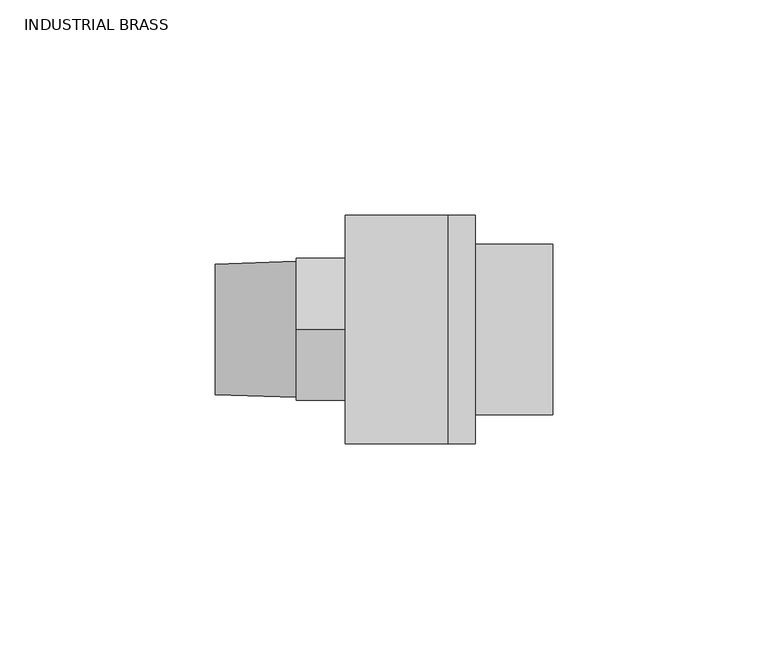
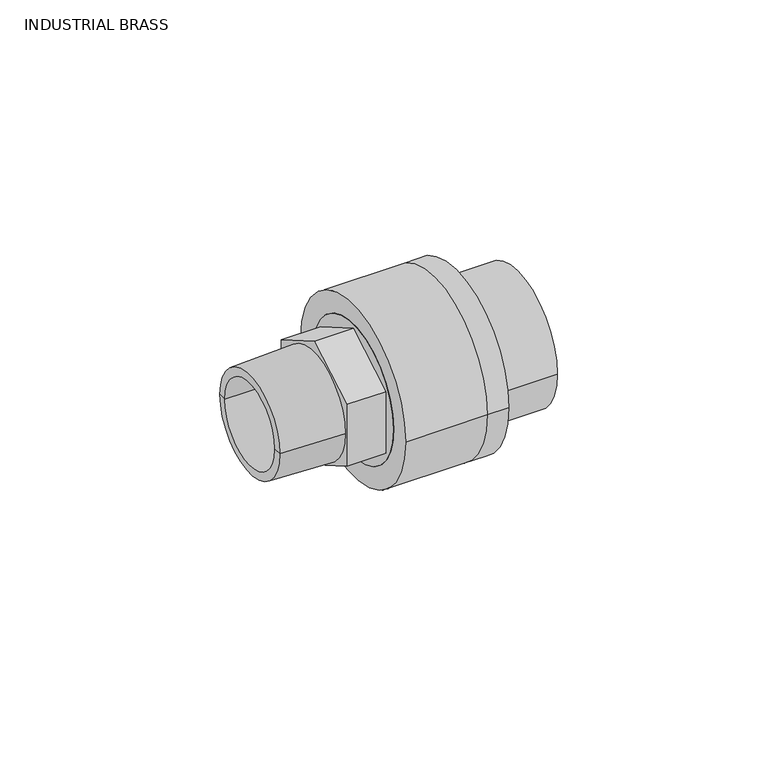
"""IFC4 building model written with IfcOpenShell, lengths in millimetres: valve geometry, Aquatherm - Transition Piece - M HEX : INDUSTRIAL BRASS."""

from ifc_helpers import new_model, si_unit, frame, origin, place, context, project, spatial, polyline, circle_curve, source, transform, mapped, element, save
from ifc_brep_helpers import plane_surface, cylinder_surface, revolved_surface, advanced_brep


def industrial_brass_9856b5b7(model_context):
    return source(origin(), model_context, "Body", "AdvancedBrep", [
        advanced_brep(
        [(23.876, -20.32, 0.0), (23.876, 20.32, 0.0), (23.876, -12.7, 0.0), (23.876, 12.7, 0.0), (0.0, -20.32, 0.0), (0.0, 20.32, 0.0), (0.0, 0.0, -19.0641059), (0.0, 16.51, -9.5320529), (0.0, 16.51, 9.5320529), (0.0, 0.0, 19.0641059), (0.0, -16.51, 9.5320529), (0.0, -16.51, -9.5320529), (0.0, -12.7, 0.0), (0.0, 12.7, 0.0), (-11.43, 0.0, -19.0641059), (-11.43, -16.51, -9.5320529), (-11.43, -16.51, 9.5320529), (-11.43, 0.0, 19.0641059), (-11.43, 16.51, 9.5320529), (-11.43, 16.51, -9.5320529), (-11.43, -15.7776355, 0.0), (-11.43, 15.7776355, 0.0), (-11.43, -12.7, 0.0), (-11.43, 12.7, 0.0), (-30.226, 12.7, 0.0), (-30.226, -12.7, 0.0), (-30.226, 15.1786145, 0.0), (-30.226, -15.1786145, 0.0)],
        [
            (0, 1, circle_curve(frame((23.876, 0.0, 0.0), z_axis=(1.0, 0.0, 0.0), x_axis=(0.0, 1.0, 0.0)), 20.32)),
            (1, 0, circle_curve(frame((23.876, 0.0, 0.0), z_axis=(1.0, 0.0, 0.0), x_axis=(0.0, 1.0, 0.0)), 20.32)),
            (2, 3, circle_curve(frame((23.876, 0.0, 0.0), z_axis=(-1.0, 0.0, 0.0), x_axis=(0.0, 1.0, 0.0)), 12.7)),
            (3, 2, circle_curve(frame((23.876, 0.0, 0.0), z_axis=(-1.0, 0.0, 0.0), x_axis=(0.0, 1.0, 0.0)), 12.7)),
            (4, 5, circle_curve(frame((0.0, 0.0, 0.0), z_axis=(-1.0, 0.0, 0.0), x_axis=(0.0, 1.0, 0.0)), 20.32)),
            (5, 4, circle_curve(frame((0.0, 0.0, 0.0), z_axis=(-1.0, 0.0, 0.0), x_axis=(0.0, 1.0, 0.0)), 20.32)),
            (6, 7),
            (7, 8),
            (8, 9),
            (9, 10),
            (10, 11),
            (11, 6),
            (0, 4),
            (5, 1),
            (2, 12),
            (12, 13, circle_curve(frame((0.0, 0.0, 0.0), z_axis=(-1.0, 0.0, 0.0), x_axis=(0.0, 1.0, 0.0)), 12.7)),
            (13, 3),
            (13, 12, circle_curve(frame((0.0, 0.0, 0.0), z_axis=(-1.0, 0.0, 0.0), x_axis=(0.0, 1.0, 0.0)), 12.7)),
            (14, 15),
            (15, 16),
            (16, 17),
            (17, 18),
            (18, 19),
            (19, 14),
            (20, 21, circle_curve(frame((-11.43, 0.0, 0.0), z_axis=(1.0, 0.0, 0.0), x_axis=(0.0, 1.0, 0.0)), 15.7776355)),
            (21, 20, circle_curve(frame((-11.43, 0.0, 0.0), z_axis=(1.0, 0.0, 0.0), x_axis=(0.0, 1.0, 0.0)), 15.7776355)),
            (19, 7),
            (6, 14),
            (18, 8),
            (17, 9),
            (16, 10),
            (15, 11),
            (12, 22),
            (22, 23, circle_curve(frame((-11.43, 0.0, 0.0), z_axis=(-1.0, 0.0, 0.0), x_axis=(0.0, 1.0, 0.0)), 12.7)),
            (23, 13),
            (23, 22, circle_curve(frame((-11.43, 0.0, 0.0), z_axis=(-1.0, 0.0, 0.0), x_axis=(0.0, 1.0, 0.0)), 12.7)),
            (23, 24),
            (24, 25, circle_curve(frame((-30.226, 0.0, 0.0), z_axis=(-1.0, 0.0, 0.0), x_axis=(0.0, 1.0, 0.0)), 12.7)),
            (25, 22),
            (25, 24, circle_curve(frame((-30.226, 0.0, 0.0), z_axis=(-1.0, 0.0, 0.0), x_axis=(0.0, 1.0, 0.0)), 12.7)),
            (24, 26),
            (26, 27, circle_curve(frame((-30.226, 0.0, 0.0), z_axis=(-1.0, 0.0, 0.0), x_axis=(0.0, 1.0, 0.0)), 15.1786145)),
            (27, 25),
            (27, 26, circle_curve(frame((-30.226, 0.0, 0.0), z_axis=(-1.0, 0.0, 0.0), x_axis=(0.0, 1.0, 0.0)), 15.1786145)),
            (26, 21),
            (20, 27),
        ],
        [
            plane_surface(frame((23.876, 20.32, 0.0), z_axis=(1.0, 0.0, 0.0), x_axis=(0.0, 0.0, 1.0))),
            plane_surface(frame((0.0, 20.32, 0.0), z_axis=(-1.0, 0.0, 0.0), x_axis=(0.0, 0.0, -1.0))),
            cylinder_surface(frame((0.0, 0.0, 0.0), z_axis=(1.0, 0.0, 0.0), x_axis=(0.0, 1.0, 0.0)), 20.32),
            revolved_surface(polyline([(0.0, 12.7, 0.0), (23.876, 12.7, 0.0)]), (17.447219, 0.0, 0.0), (-1.0, 0.0, 0.0)),
            plane_surface(frame((-11.43, 0.0, -19.0641059), z_axis=(-1.0, 0.0, 0.0), x_axis=(0.0, -0.8660254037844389, -0.4999999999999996))),
            plane_surface(frame((0.0, 0.0, -19.0641059), z_axis=(0.0, 0.4999999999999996, -0.8660254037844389), x_axis=(-1.0, 0.0, 0.0))),
            plane_surface(frame((0.0, 16.51, -9.5320529), z_axis=(0.0, 1.0, 0.0), x_axis=(-1.0, 0.0, 0.0))),
            plane_surface(frame((0.0, 16.51, 9.5320529), z_axis=(0.0, 0.499999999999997, 0.8660254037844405), x_axis=(-1.0, 0.0, 0.0))),
            plane_surface(frame((0.0, 0.0, 19.0641059), z_axis=(0.0, -0.5000000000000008, 0.8660254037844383), x_axis=(-1.0, 0.0, 0.0))),
            plane_surface(frame((0.0, -16.51, 9.5320529), z_axis=(0.0, -1.0, 0.0), x_axis=(-1.0, 0.0, 0.0))),
            plane_surface(frame((0.0, -16.51, -9.5320529), z_axis=(0.0, -0.499999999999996, -0.866025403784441), x_axis=(-1.0, 0.0, 0.0))),
            revolved_surface(polyline([(-11.43, 12.7, 0.0), (0.0, 12.7, 0.0)]), (0.0, 0.0, 0.0), (-1.0, 0.0, 0.0)),
            revolved_surface(polyline([(-30.226, 12.7, 0.0), (-11.43, 12.7, 0.0)]), (-65.0990688, 0.0, 0.0), (-1.0, 0.0, 0.0)),
            plane_surface(frame((-30.226, 0.0, 0.0), z_axis=(-1.0, 0.0, 0.0), x_axis=(0.0, 1.0, 0.0))),
            revolved_surface(polyline([(-11.43, 15.7776355, 0.0), (-30.226, 15.1786145, 0.0)]), (-65.0990688, 0.0, 0.0), (-1.0, 0.0, 0.0)),
        ],
        [
            (0, [[1, 2], [3, 4]]),
            (1, [[5, 6], [7, 8, 9, 10, 11, 12]]),
            (2, [[-1, 13, -6, 14]]),
            (2, [[-2, -14, -5, -13]]),
            (3, [[-3, 15, 16, 17]]),
            (3, [[-4, -17, 18, -15]]),
            (4, [[19, 20, 21, 22, 23, 24], [25, 26]]),
            (5, [[-24, 27, -7, 28]]),
            (6, [[-23, 29, -8, -27]]),
            (7, [[-22, 30, -9, -29]]),
            (8, [[-21, 31, -10, -30]]),
            (9, [[-20, 32, -11, -31]]),
            (10, [[-19, -28, -12, -32]]),
            (11, [[33, 34, 35, -16]]),
            (11, [[-33, -18, -35, 36]]),
            (12, [[37, 38, 39, -36]]),
            (12, [[-37, -34, -39, 40]]),
            (13, [[-38, 41, 42, 43]]),
            (13, [[-40, -43, 44, -41]]),
            (14, [[-42, 45, -25, 46]]),
            (14, [[-44, -46, -26, -45]]),
        ],
    ),
        advanced_brep(
        [(0.0, -26.543, 0.0), (0.0, 26.543, 0.0), (0.0, -20.32, 0.0), (0.0, 20.32, 0.0), (23.876, 26.543, 0.0), (23.876, -26.543, 0.0), (23.876, 20.32, 0.0), (23.876, -20.32, 0.0), (30.226, -26.543, 0.0), (30.226, 26.543, 0.0), (30.226, 19.812, 0.0), (30.226, -19.812, 0.0), (30.226, 16.002, 0.0), (30.226, -16.002, 0.0), (30.226, -12.7, 0.0), (30.226, 12.7, 0.0), (23.876, -12.7, 0.0), (23.876, 12.7, 0.0), (48.26, -19.812, 0.0), (48.26, 19.812, 0.0), (48.26, -16.002, 0.0), (48.26, 16.002, 0.0)],
        [
            (0, 1, circle_curve(frame((0.0, 0.0, 0.0), z_axis=(-1.0, 0.0, 0.0), x_axis=(0.0, 1.0, 0.0)), 26.543)),
            (1, 0, circle_curve(frame((0.0, 0.0, 0.0), z_axis=(-1.0, 0.0, 0.0), x_axis=(0.0, 1.0, 0.0)), 26.543)),
            (2, 3, circle_curve(frame((0.0, 0.0, 0.0), z_axis=(1.0, 0.0, 0.0), x_axis=(0.0, 1.0, 0.0)), 20.32)),
            (3, 2, circle_curve(frame((0.0, 0.0, 0.0), z_axis=(1.0, 0.0, 0.0), x_axis=(0.0, 1.0, 0.0)), 20.32)),
            (1, 4),
            (4, 5, circle_curve(frame((23.876, 0.0, 0.0), z_axis=(-1.0, 0.0, 0.0), x_axis=(0.0, 1.0, 0.0)), 26.543)),
            (5, 0),
            (5, 4, circle_curve(frame((23.876, 0.0, 0.0), z_axis=(-1.0, 0.0, 0.0), x_axis=(0.0, 1.0, 0.0)), 26.543)),
            (3, 6),
            (6, 7, circle_curve(frame((23.876, 0.0, 0.0), z_axis=(1.0, 0.0, 0.0), x_axis=(0.0, 1.0, 0.0)), 20.32)),
            (7, 2),
            (7, 6, circle_curve(frame((23.876, 0.0, 0.0), z_axis=(1.0, 0.0, 0.0), x_axis=(0.0, 1.0, 0.0)), 20.32)),
            (8, 9, circle_curve(frame((30.226, 0.0, 0.0), z_axis=(1.0, 0.0, 0.0), x_axis=(0.0, 1.0, 0.0)), 26.543)),
            (9, 8, circle_curve(frame((30.226, 0.0, 0.0), z_axis=(1.0, 0.0, 0.0), x_axis=(0.0, 1.0, 0.0)), 26.543)),
            (10, 11, circle_curve(frame((30.226, 0.0, 0.0), z_axis=(-1.0, 0.0, 0.0), x_axis=(0.0, 1.0, 0.0)), 19.812)),
            (11, 10, circle_curve(frame((30.226, 0.0, 0.0), z_axis=(-1.0, 0.0, 0.0), x_axis=(0.0, 1.0, 0.0)), 19.812)),
            (12, 13, circle_curve(frame((30.226, 0.0, 0.0), z_axis=(1.0, 0.0, 0.0), x_axis=(0.0, 1.0, 0.0)), 16.002)),
            (13, 12, circle_curve(frame((30.226, 0.0, 0.0), z_axis=(1.0, 0.0, 0.0), x_axis=(0.0, 1.0, 0.0)), 16.002)),
            (14, 15, circle_curve(frame((30.226, 0.0, 0.0), z_axis=(-1.0, 0.0, 0.0), x_axis=(0.0, 1.0, 0.0)), 12.7)),
            (15, 14, circle_curve(frame((30.226, 0.0, 0.0), z_axis=(-1.0, 0.0, 0.0), x_axis=(0.0, 1.0, 0.0)), 12.7)),
            (16, 17, circle_curve(frame((23.876, 0.0, 0.0), z_axis=(1.0, 0.0, 0.0), x_axis=(0.0, 1.0, 0.0)), 12.7)),
            (17, 16, circle_curve(frame((23.876, 0.0, 0.0), z_axis=(1.0, 0.0, 0.0), x_axis=(0.0, 1.0, 0.0)), 12.7)),
            (8, 5),
            (4, 9),
            (14, 16),
            (17, 15),
            (18, 19, circle_curve(frame((48.26, 0.0, 0.0), z_axis=(1.0, 0.0, 0.0), x_axis=(0.0, 1.0, 0.0)), 19.812)),
            (19, 18, circle_curve(frame((48.26, 0.0, 0.0), z_axis=(1.0, 0.0, 0.0), x_axis=(0.0, 1.0, 0.0)), 19.812)),
            (20, 21, circle_curve(frame((48.26, 0.0, 0.0), z_axis=(-1.0, 0.0, 0.0), x_axis=(0.0, 1.0, 0.0)), 16.002)),
            (21, 20, circle_curve(frame((48.26, 0.0, 0.0), z_axis=(-1.0, 0.0, 0.0), x_axis=(0.0, 1.0, 0.0)), 16.002)),
            (18, 11),
            (10, 19),
            (20, 13),
            (12, 21),
        ],
        [
            plane_surface(frame((0.0, 26.543, 0.0), z_axis=(-1.0, 0.0, 0.0), x_axis=(0.0, 0.0, -1.0))),
            cylinder_surface(frame((0.0, 0.0, 0.0), z_axis=(1.0, 0.0, 0.0), x_axis=(0.0, 1.0, 0.0)), 26.543),
            revolved_surface(polyline([(0.0, 20.32, 0.0), (23.875999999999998, 20.32, 0.0)]), (-38.1, 0.0, 0.0), (-1.0, 0.0, 0.0)),
            plane_surface(frame((30.226, 26.543, 0.0), z_axis=(1.0, 0.0, 0.0), x_axis=(0.0, 0.0, 1.0))),
            plane_surface(frame((23.876, 26.543, 0.0), z_axis=(-1.0, 0.0, 0.0), x_axis=(0.0, 0.0, -1.0))),
            cylinder_surface(frame((23.876, 0.0, 0.0), z_axis=(1.0, 0.0, 0.0), x_axis=(0.0, 1.0, 0.0)), 26.543),
            revolved_surface(polyline([(23.876, 12.7, 0.0), (30.225999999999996, 12.7, 0.0)]), (-19.05, 0.0, 0.0), (-1.0, 0.0, 0.0)),
            plane_surface(frame((48.26, 19.812, 0.0), z_axis=(1.0, 0.0, 0.0), x_axis=(0.0, 0.0, 1.0))),
            cylinder_surface(frame((30.226, 0.0, 0.0), z_axis=(1.0, 0.0, 0.0), x_axis=(0.0, 1.0, 0.0)), 19.812),
            revolved_surface(polyline([(30.226, 16.002, 0.0), (48.26, 16.002, 0.0)]), (0.0, 0.0, 0.0), (-1.0, 0.0, 0.0)),
        ],
        [
            (0, [[1, 2], [3, 4]]),
            (1, [[-2, 5, 6, 7]]),
            (1, [[-1, -7, 8, -5]]),
            (2, [[-4, 9, 10, 11]]),
            (2, [[-3, -11, 12, -9]]),
            (3, [[13, 14], [15, 16]]),
            (3, [[17, 18], [19, 20]]),
            (4, [[-10, -12], [21, 22]]),
            (5, [[-13, 23, -6, 24]]),
            (5, [[-14, -24, -8, -23]]),
            (6, [[-19, 25, -22, 26]]),
            (6, [[-20, -26, -21, -25]]),
            (7, [[27, 28], [29, 30]]),
            (8, [[-27, 31, -15, 32]]),
            (8, [[-28, -32, -16, -31]]),
            (9, [[-29, 33, -17, 34]]),
            (9, [[-30, -34, -18, -33]]),
        ],
    ),
    ])


if __name__ == "__main__":
    model = new_model("IFC4")
    model_context = context("Model", 3, world=origin())
    ifc_project = project(units=[si_unit("LENGTHUNIT", "METRE", prefix="MILLI")], contexts=[model_context])
    site = spatial("IfcSite", under=ifc_project)
    building = spatial("IfcBuilding", under=site)
    placement = place(None, origin())
    industrial_brass_shape = industrial_brass_9856b5b7(model_context)
    element("IfcValve", 1, ObjectType="Aquatherm - Transition Piece - M HEX : INDUSTRIAL BRASS", at=placement, inside=building, context=model_context, shape_type="MappedRepresentation", body=[
        mapped(industrial_brass_shape, transform((0.0, 0.0, 0.0), x_axis=(1.0, 0.0, 0.0), y_axis=(0.0, 1.0, 0.0), z_axis=(0.0, 0.0, 1.0))),
    ])
    save(model, "model.ifc")
